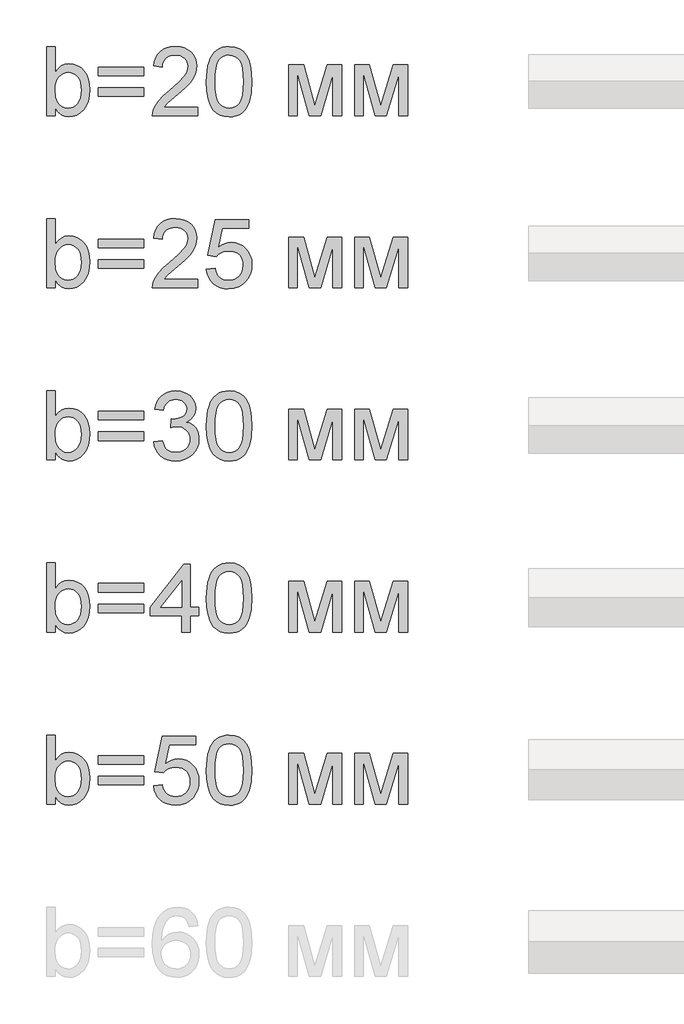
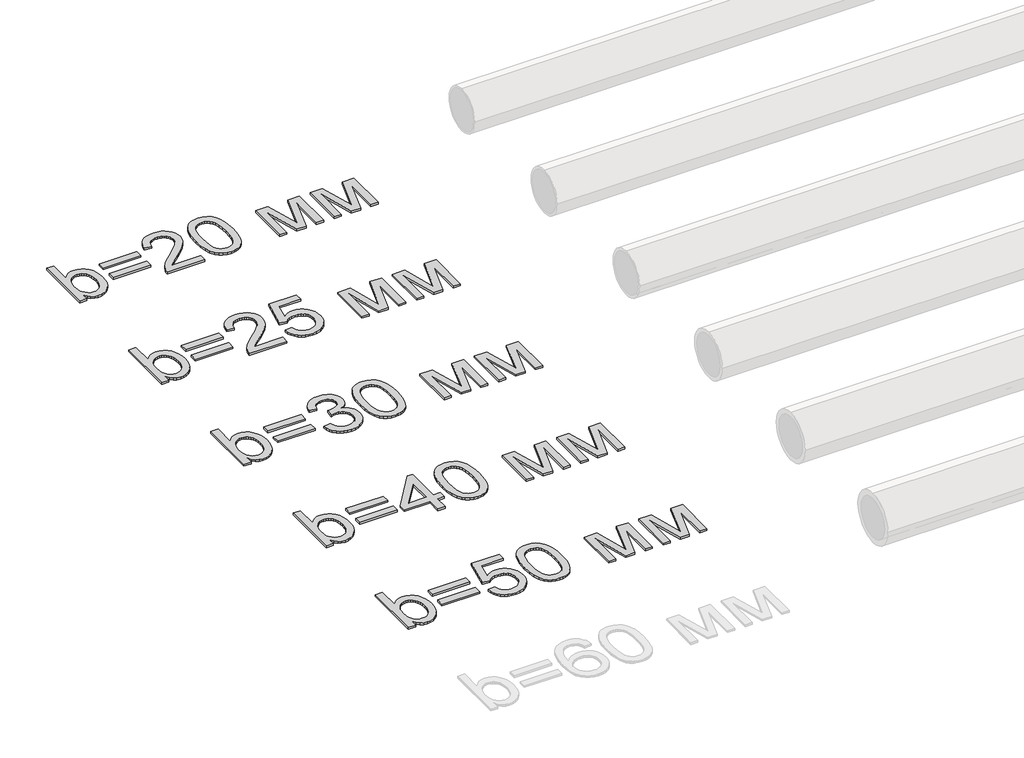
# One storey, part 65 of 86: 5 proxies.
"""IFC4 building model written with IfcOpenShell, lengths in millimetres."""

from ifc_helpers import new_model, si_unit, origin, origin_with_axes, place, context, project, spatial, polyline, outline, extrude, element, save

model = new_model("IFC4")

# Units and contexts
model_context = context("Model", 3, world=origin())
ifc_project = project(units=[si_unit("LENGTHUNIT", "METRE", prefix="MILLI")], contexts=[model_context])

# Site, building, storey
site = spatial("IfcSite", under=ifc_project)
building = spatial("IfcBuilding", under=site)
storey = spatial("IfcBuildingStorey", under=building, Name="Уровень 1", Elevation=0.0)

# Proxies
placement = place(None, origin())
element("IfcBuildingElementProxy", 1, Name="Текст модели 1", ObjectType="Текст модели 1", at=placement, inside=storey, context=model_context, shape_type="SweptSolid", body=[
    extrude(outline(polyline([(71159.6307988, 29169.2937088), (71084.2885662, 29169.2937088), (71084.2885662, 29772.0315697), (71159.6307988, 29772.0315697), (71159.6307988, 29548.5064694), (71184.4076512, 29580.3742473), (71212.3850769, 29603.1369457), (71243.563076, 29616.7945648), (71277.9416484, 29621.3471045), (71316.7531989, 29617.2452202), (71353.4310339, 29604.9395675), (71385.8782258, 29585.2026984), (71411.9978475, 29558.8071653), (71432.4704805, 29526.0104854), (71447.9767066, 29487.0701762), (71457.7439736, 29443.6049185), (71460.9997292, 29397.233393), (71457.6290105, 29343.7249568), (71447.5168541, 29296.6544555), (71430.6632602, 29256.0218892), (71407.0682288, 29221.8272577), (71378.7459136, 29194.7235517), (71347.7104688, 29175.3637617), (71313.9618943, 29163.7478877), (71277.50019, 29159.8759297), (71241.9903805, 29164.8699278), (71210.5088787, 29179.8519221), (71183.0556848, 29204.8219125), (71159.6307988, 29239.7798991), (71159.6307988, 29169.2937088)]), holes=[polyline([(71159.6307988, 29393.7017259), (71164.7811467, 29330.8674811), (71171.2190816, 29307.065516), (71180.2321905, 29288.3403224), (71198.4883345, 29265.0993774), (71219.7059286, 29248.4987024), (71243.8849727, 29238.5382973), (71271.0254669, 29235.2181623), (71293.5582391, 29237.6645776), (71314.5091188, 29245.0038234), (71333.8781058, 29257.2358997), (71351.6652003, 29274.3608066), (71366.5368299, 29296.3325588), (71377.1594225, 29323.105171), (71383.5329781, 29354.6786432), (71385.6574966, 29391.0529755), (71383.6203501, 29428.1170865), (71377.5089104, 29459.9940614), (71367.3231777, 29486.6839001), (71353.0631519, 29508.1866028), (71335.9152524, 29524.7320955), (71317.0658986, 29536.5503046), (71296.5150907, 29543.64123), (71274.2628285, 29546.0048719), (71251.7300563, 29543.5584566), (71230.7791767, 29536.2192108), (71211.4101896, 29523.9871344), (71193.6230951, 29506.8622276), (71178.7514655, 29485.1112046), (71168.1288729, 29459.00078), (71161.7553173, 29428.5309538), (71159.6307988, 29393.7017259)])]), origin_with_axes(), (0.0, 0.0, 1.0), 20.0),
    extrude(outline(polyline([(71931.8886831, 29517.7515346), (71536.3419619, 29517.7515346), (71536.3419619, 29593.0937672), (71931.8886831, 29593.0937672), (71931.8886831, 29517.7515346)])), origin_with_axes(), (0.0, 0.0, 1.0), 20.0),
    extrude(outline(polyline([(71931.8886831, 29338.8137322), (71536.3419619, 29338.8137322), (71536.3419619, 29414.1559648), (71931.8886831, 29414.1559648), (71931.8886831, 29338.8137322)])), origin_with_axes(), (0.0, 0.0, 1.0), 20.0),
    extrude(outline(polyline([(72402.7776369, 29244.6359414), (72402.7776369, 29169.2937088), (72007.2309157, 29169.2937088), (72008.8863847, 29195.8180007), (72015.3243196, 29221.2386465), (72033.9023603, 29261.8344247), (72061.0888398, 29301.2161923), (72100.4154251, 29342.4373698), (72155.4137833, 29388.5513779), (72236.7157043, 29460.7666136), (72285.4968568, 29514.0727147), (72299.724693, 29535.8513288), (72309.8874331, 29557.3356373), (72315.9850772, 29578.5256402), (72318.0176252, 29599.4213376), (72316.1000403, 29619.0800317), (72310.3472856, 29637.1476362), (72300.7593611, 29653.624151), (72287.3362668, 29668.5095763), (72270.8229638, 29680.8382216), (72251.964413, 29689.6443969), (72230.7606145, 29694.928102), (72207.2115683, 29696.6893371), (72182.4025262, 29694.9694888), (72160.2146434, 29689.8099438), (72140.6479198, 29681.2107021), (72123.7023554, 29669.1717638), (72109.9941525, 29654.0977991), (72100.1395136, 29636.3934781), (72094.1384385, 29616.0588008), (72091.9909274, 29593.0937672), (72016.6486948, 29602.5115463), (72023.1280164, 29641.4058703), (72034.9140358, 29675.3889696), (72052.006753, 29704.4608442), (72074.406168, 29728.6214943), (72101.597246, 29747.6134023), (72133.0649521, 29761.1790508), (72168.8092865, 29769.31844), (72208.830249, 29772.0315697), (72249.2098965, 29769.0149373), (72285.1473689, 29759.9650403), (72316.6426662, 29744.8818785), (72343.6957885, 29723.7654519), (72365.4238188, 29698.1792592), (72380.9438405, 29669.6867986), (72390.2558535, 29638.2880704), (72393.3598578, 29603.9830743), (72390.0121317, 29567.9490329), (72379.9689532, 29532.5403908), (72362.1450705, 29496.5247435), (72335.4552318, 29458.6696862), (72292.909679, 29413.4753831), (72227.5186544, 29355.4419984), (72140.8456563, 29282.9692453), (72106.85336, 29244.6359414), (72402.7776369, 29244.6359414)])), origin_with_axes(), (0.0, 0.0, 1.0), 20.0),
    extrude(outline(polyline([(72478.1198695, 29465.8065969), (72483.6564935, 29562.2836501), (72490.5772736, 29603.1967265), (72500.2663656, 29639.2261694), (72512.682383, 29670.6662845), (72527.7839389, 29697.8113772), (72545.5710333, 29720.6614476), (72566.0436664, 29739.2164957), (72589.2708158, 29753.5730906), (72615.3214596, 29763.8278012), (72644.1955977, 29769.9806276), (72675.8932301, 29772.0315697), (72722.3199379, 29767.1755274), (72763.8906034, 29752.6074004), (72798.6554519, 29728.8974058), (72824.664709, 29696.6157607), (72844.3096075, 29656.0383766), (72859.9813805, 29607.4411651), (72870.2452882, 29545.7289604), (72873.6665907, 29465.8065969), (72868.185149, 29369.8813667), (72861.3333468, 29329.106246), (72851.7408238, 29293.1227884), (72839.4213755, 29261.6688778), (72824.3887975, 29234.4823983), (72806.6430897, 29211.56335), (72786.1842523, 29192.9117329), (72762.9295116, 29178.458569), (72736.7960944, 29168.1348805), (72707.7840006, 29161.9406674), (72675.8932301, 29159.8759297), (72634.3961411, 29163.4627792), (72597.6079415, 29174.2233275), (72565.5286316, 29192.1575748), (72538.1582111, 29217.265521), (72511.8914367, 29262.6529621), (72493.1294549, 29319.2056218), (72481.8722659, 29386.9235001), (72478.1198695, 29465.8065969)]), holes=[polyline([(72553.4621021, 29465.9537497), (72555.6693941, 29400.456959), (72562.29127, 29347.440565), (72573.3277299, 29306.9045676), (72588.7787737, 29278.848967), (72607.467179, 29259.7604899), (72628.2157235, 29246.1258635), (72651.0244072, 29237.9450876), (72675.8932301, 29235.2181623), (72700.762053, 29237.9542847), (72723.5707367, 29246.1626517), (72744.3192812, 29259.8432634), (72763.0076866, 29278.9961198), (72778.4587304, 29307.0977057), (72789.4951902, 29347.624506), (72796.1170661, 29400.5765206), (72798.3243581, 29465.9537497), (72796.1906425, 29529.7168965), (72789.7894958, 29581.79979), (72779.120918, 29622.2024301), (72764.184909, 29650.9248169), (72745.8092033, 29670.9467945), (72724.8215355, 29685.248207), (72701.2219055, 29693.8290546), (72675.0103133, 29696.6893371), (72650.2702492, 29694.1693454), (72627.8478415, 29686.6093704), (72607.7430905, 29674.0094121), (72589.955996, 29656.3694704), (72573.9899175, 29625.0995008), (72562.5855756, 29582.9402242), (72555.7429705, 29529.8916405), (72553.4621021, 29465.9537497)])]), origin_with_axes(), (0.0, 0.0, 1.0), 20.0),
    extrude(outline(polyline([(73193.8710793, 29611.9293254), (73323.5126944, 29611.9293254), (73423.4294443, 29257.5853876), (73531.1452925, 29611.9293254), (73655.3422541, 29611.9293254), (73655.3422541, 29169.2937088), (73580.0000215, 29169.2937088), (73580.0000215, 29525.6977857), (73471.6955621, 29169.2937088), (73372.8088818, 29169.2937088), (73269.2133119, 29542.7675103), (73269.2133119, 29169.2937088), (73193.8710793, 29169.2937088), (73193.8710793, 29611.9293254)])), origin_with_axes(), (0.0, 0.0, 1.0), 20.0),
    extrude(outline(polyline([(73768.355603, 29611.9293254), (73897.9972181, 29611.9293254), (73997.913968, 29257.5853876), (74105.6298162, 29611.9293254), (74229.8267777, 29611.9293254), (74229.8267777, 29169.2937088), (74154.4845451, 29169.2937088), (74154.4845451, 29525.6977857), (74046.1800857, 29169.2937088), (73947.2934054, 29169.2937088), (73843.6978356, 29542.7675103), (73843.6978356, 29169.2937088), (73768.355603, 29169.2937088), (73768.355603, 29611.9293254)])), origin_with_axes(), (0.0, 0.0, 1.0), 20.0),
])
element("IfcBuildingElementProxy", 2, Name="Текст модели 1", ObjectType="Текст модели 1", at=placement, inside=storey, context=model_context, shape_type="SweptSolid", body=[
    extrude(outline(polyline([(71159.6307988, 27669.2937088), (71084.2885662, 27669.2937088), (71084.2885662, 28272.0315697), (71159.6307988, 28272.0315697), (71159.6307988, 28048.5064694), (71184.4076512, 28080.3742473), (71212.3850769, 28103.1369457), (71243.563076, 28116.7945648), (71277.9416484, 28121.3471045), (71316.7531989, 28117.2452202), (71353.4310339, 28104.9395675), (71385.8782258, 28085.2026984), (71411.9978475, 28058.8071653), (71432.4704805, 28026.0104854), (71447.9767066, 27987.0701762), (71457.7439736, 27943.6049185), (71460.9997292, 27897.233393), (71457.6290105, 27843.7249568), (71447.5168541, 27796.6544555), (71430.6632602, 27756.0218892), (71407.0682288, 27721.8272577), (71378.7459136, 27694.7235517), (71347.7104688, 27675.3637617), (71313.9618943, 27663.7478877), (71277.50019, 27659.8759297), (71241.9903805, 27664.8699278), (71210.5088787, 27679.8519221), (71183.0556848, 27704.8219125), (71159.6307988, 27739.7798991), (71159.6307988, 27669.2937088)]), holes=[polyline([(71159.6307988, 27893.7017259), (71164.7811467, 27830.8674811), (71171.2190816, 27807.065516), (71180.2321905, 27788.3403224), (71198.4883345, 27765.0993774), (71219.7059286, 27748.4987024), (71243.8849727, 27738.5382973), (71271.0254669, 27735.2181623), (71293.5582391, 27737.6645776), (71314.5091188, 27745.0038234), (71333.8781058, 27757.2358997), (71351.6652003, 27774.3608066), (71366.5368299, 27796.3325588), (71377.1594225, 27823.105171), (71383.5329781, 27854.6786432), (71385.6574966, 27891.0529755), (71383.6203501, 27928.1170865), (71377.5089104, 27959.9940614), (71367.3231777, 27986.6839001), (71353.0631519, 28008.1866028), (71335.9152524, 28024.7320955), (71317.0658986, 28036.5503046), (71296.5150907, 28043.64123), (71274.2628285, 28046.0048719), (71251.7300563, 28043.5584566), (71230.7791767, 28036.2192108), (71211.4101896, 28023.9871344), (71193.6230951, 28006.8622276), (71178.7514655, 27985.1112046), (71168.1288729, 27959.00078), (71161.7553173, 27928.5309538), (71159.6307988, 27893.7017259)])]), origin_with_axes(), (0.0, 0.0, 1.0), 20.0),
    extrude(outline(polyline([(71931.8886831, 28017.7515346), (71536.3419619, 28017.7515346), (71536.3419619, 28093.0937672), (71931.8886831, 28093.0937672), (71931.8886831, 28017.7515346)])), origin_with_axes(), (0.0, 0.0, 1.0), 20.0),
    extrude(outline(polyline([(71931.8886831, 27838.8137322), (71536.3419619, 27838.8137322), (71536.3419619, 27914.1559648), (71931.8886831, 27914.1559648), (71931.8886831, 27838.8137322)])), origin_with_axes(), (0.0, 0.0, 1.0), 20.0),
    extrude(outline(polyline([(72402.7776369, 27744.6359414), (72402.7776369, 27669.2937088), (72007.2309157, 27669.2937088), (72008.8863847, 27695.8180007), (72015.3243196, 27721.2386465), (72033.9023603, 27761.8344247), (72061.0888398, 27801.2161923), (72100.4154251, 27842.4373698), (72155.4137833, 27888.5513779), (72236.7157043, 27960.7666136), (72285.4968568, 28014.0727147), (72299.724693, 28035.8513288), (72309.8874331, 28057.3356373), (72315.9850772, 28078.5256402), (72318.0176252, 28099.4213376), (72316.1000403, 28119.0800317), (72310.3472856, 28137.1476362), (72300.7593611, 28153.624151), (72287.3362668, 28168.5095763), (72270.8229638, 28180.8382216), (72251.964413, 28189.6443969), (72230.7606145, 28194.928102), (72207.2115683, 28196.6893371), (72182.4025262, 28194.9694888), (72160.2146434, 28189.8099438), (72140.6479198, 28181.2107021), (72123.7023554, 28169.1717638), (72109.9941525, 28154.0977991), (72100.1395136, 28136.3934781), (72094.1384385, 28116.0588008), (72091.9909274, 28093.0937672), (72016.6486948, 28102.5115463), (72023.1280164, 28141.4058703), (72034.9140358, 28175.3889696), (72052.006753, 28204.4608442), (72074.406168, 28228.6214943), (72101.597246, 28247.6134023), (72133.0649521, 28261.1790508), (72168.8092865, 28269.31844), (72208.830249, 28272.0315697), (72249.2098965, 28269.0149373), (72285.1473689, 28259.9650403), (72316.6426662, 28244.8818785), (72343.6957885, 28223.7654519), (72365.4238188, 28198.1792592), (72380.9438405, 28169.6867986), (72390.2558535, 28138.2880704), (72393.3598578, 28103.9830743), (72390.0121317, 28067.9490329), (72379.9689532, 28032.5403908), (72362.1450705, 27996.5247435), (72335.4552318, 27958.6696862), (72292.909679, 27913.4753831), (72227.5186544, 27855.4419984), (72140.8456563, 27782.9692453), (72106.85336, 27744.6359414), (72402.7776369, 27744.6359414)])), origin_with_axes(), (0.0, 0.0, 1.0), 20.0),
    extrude(outline(polyline([(72478.1198695, 27829.3959531), (72553.4621021, 27838.8137322), (72559.0906966, 27814.5933013), (72567.2944651, 27793.5826409), (72578.0734076, 27775.7817508), (72591.427524, 27761.1906312), (72607.3292233, 27749.8276761), (72625.7509142, 27741.7112795), (72646.6925967, 27736.8414416), (72670.154271, 27735.2181623), (72698.8490666, 27737.4760381), (72724.1593479, 27744.2496653), (72746.0851148, 27755.539044), (72764.6263674, 27771.3441743), (72779.3692383, 27790.8833067), (72789.8998604, 27813.3746922), (72796.2182337, 27838.8183307), (72798.3243581, 27867.2142222), (72796.3515909, 27894.0512138), (72790.4332893, 27917.9083611), (72780.5694533, 27938.7856644), (72766.7600829, 27956.6831234), (72748.9591929, 27971.0397183), (72727.1207979, 27981.2944289), (72701.2448981, 27987.4472553), (72671.3314934, 27989.4981974), (72634.7824172, 27986.2240476), (72605.1863106, 27976.4015984), (72581.5498925, 27961.3552248), (72562.8798812, 27942.409302), (72487.5376486, 27951.8270811), (72553.4621021, 28262.6137906), (72845.4132535, 28262.6137906), (72845.4132535, 28187.271558), (72614.3833605, 28187.271558), (72582.1568977, 28021.2832018), (72608.7455689, 28040.3394891), (72635.9780336, 28053.951123), (72663.8542918, 28062.1181032), (72692.3743435, 28064.84043), (72729.065974, 28061.4651127), (72762.7685633, 28051.3391608), (72793.4821113, 28034.4625743), (72821.2066182, 28010.8353531), (72844.1578562, 27981.9014342), (72860.5515976, 27949.1047543), (72870.3878424, 27912.4453135), (72873.6665907, 27871.9231117), (72870.7143377, 27832.8908321), (72861.8575787, 27796.5808791), (72847.0963136, 27762.993253), (72826.4305425, 27732.1279536), (72795.1237848, 27700.5176931), (72758.5931026, 27677.9389357), (72716.8384962, 27664.3916812), (72669.8599654, 27659.8759297), (72630.979437, 27662.777599), (72595.8605021, 27671.4826067), (72564.5031605, 27685.9909529), (72536.9074123, 27706.3026375), (72513.9469773, 27731.4059852), (72496.4955752, 27760.2893203), (72484.5532059, 27792.952643), (72478.1198695, 27829.3959531)])), origin_with_axes(), (0.0, 0.0, 1.0), 20.0),
    extrude(outline(polyline([(73193.8710793, 28111.9293254), (73323.5126944, 28111.9293254), (73423.4294443, 27757.5853876), (73531.1452925, 28111.9293254), (73655.3422541, 28111.9293254), (73655.3422541, 27669.2937088), (73580.0000215, 27669.2937088), (73580.0000215, 28025.6977857), (73471.6955621, 27669.2937088), (73372.8088818, 27669.2937088), (73269.2133119, 28042.7675103), (73269.2133119, 27669.2937088), (73193.8710793, 27669.2937088), (73193.8710793, 28111.9293254)])), origin_with_axes(), (0.0, 0.0, 1.0), 20.0),
    extrude(outline(polyline([(73768.355603, 28111.9293254), (73897.9972181, 28111.9293254), (73997.913968, 27757.5853876), (74105.6298162, 28111.9293254), (74229.8267777, 28111.9293254), (74229.8267777, 27669.2937088), (74154.4845451, 27669.2937088), (74154.4845451, 28025.6977857), (74046.1800857, 27669.2937088), (73947.2934054, 27669.2937088), (73843.6978356, 28042.7675103), (73843.6978356, 27669.2937088), (73768.355603, 27669.2937088), (73768.355603, 28111.9293254)])), origin_with_axes(), (0.0, 0.0, 1.0), 20.0),
])
element("IfcBuildingElementProxy", 3, Name="Текст модели 1", ObjectType="Текст модели 1", at=placement, inside=storey, context=model_context, shape_type="SweptSolid", body=[
    extrude(outline(polyline([(71159.6307988, 26169.2937088), (71084.2885662, 26169.2937088), (71084.2885662, 26772.0315697), (71159.6307988, 26772.0315697), (71159.6307988, 26548.5064694), (71184.4076512, 26580.3742473), (71212.3850769, 26603.1369457), (71243.563076, 26616.7945648), (71277.9416484, 26621.3471045), (71316.7531989, 26617.2452202), (71353.4310339, 26604.9395675), (71385.8782258, 26585.2026984), (71411.9978475, 26558.8071653), (71432.4704805, 26526.0104854), (71447.9767066, 26487.0701762), (71457.7439736, 26443.6049185), (71460.9997292, 26397.233393), (71457.6290105, 26343.7249568), (71447.5168541, 26296.6544555), (71430.6632602, 26256.0218892), (71407.0682288, 26221.8272577), (71378.7459136, 26194.7235517), (71347.7104688, 26175.3637617), (71313.9618943, 26163.7478877), (71277.50019, 26159.8759297), (71241.9903805, 26164.8699278), (71210.5088787, 26179.8519221), (71183.0556848, 26204.8219125), (71159.6307988, 26239.7798991), (71159.6307988, 26169.2937088)]), holes=[polyline([(71159.6307988, 26393.7017259), (71164.7811467, 26330.8674811), (71171.2190816, 26307.065516), (71180.2321905, 26288.3403224), (71198.4883345, 26265.0993774), (71219.7059286, 26248.4987024), (71243.8849727, 26238.5382973), (71271.0254669, 26235.2181623), (71293.5582391, 26237.6645776), (71314.5091188, 26245.0038234), (71333.8781058, 26257.2358997), (71351.6652003, 26274.3608066), (71366.5368299, 26296.3325588), (71377.1594225, 26323.105171), (71383.5329781, 26354.6786432), (71385.6574966, 26391.0529755), (71383.6203501, 26428.1170865), (71377.5089104, 26459.9940614), (71367.3231777, 26486.6839001), (71353.0631519, 26508.1866028), (71335.9152524, 26524.7320955), (71317.0658986, 26536.5503046), (71296.5150907, 26543.64123), (71274.2628285, 26546.0048719), (71251.7300563, 26543.5584566), (71230.7791767, 26536.2192108), (71211.4101896, 26523.9871344), (71193.6230951, 26506.8622276), (71178.7514655, 26485.1112046), (71168.1288729, 26459.00078), (71161.7553173, 26428.5309538), (71159.6307988, 26393.7017259)])]), origin_with_axes(), (0.0, 0.0, 1.0), 20.0),
    extrude(outline(polyline([(71931.8886831, 26517.7515346), (71536.3419619, 26517.7515346), (71536.3419619, 26593.0937672), (71931.8886831, 26593.0937672), (71931.8886831, 26517.7515346)])), origin_with_axes(), (0.0, 0.0, 1.0), 20.0),
    extrude(outline(polyline([(71931.8886831, 26338.8137322), (71536.3419619, 26338.8137322), (71536.3419619, 26414.1559648), (71931.8886831, 26414.1559648), (71931.8886831, 26338.8137322)])), origin_with_axes(), (0.0, 0.0, 1.0), 20.0),
    extrude(outline(polyline([(72016.6486948, 26329.3959531), (72091.9909274, 26338.8137322), (72108.8583168, 26291.4673194), (72120.230469, 26273.5606633), (72133.5615928, 26259.498374), (72149.1551909, 26248.8757814), (72167.3147659, 26241.2882153), (72188.0403178, 26236.7356756), (72211.3318466, 26235.2181623), (72238.6286906, 26237.3058927), (72262.9824787, 26243.5690836), (72284.3932108, 26254.0077352), (72302.860887, 26268.6218475), (72317.7325167, 26286.3169715), (72328.3551093, 26305.9986582), (72334.7286648, 26327.6669077), (72336.8531834, 26351.32172), (72334.7470589, 26373.8498937), (72328.4286857, 26394.3455193), (72317.8980636, 26412.808597), (72303.1551926, 26429.2391266), (72285.165763, 26442.7266002), (72264.8954651, 26452.36051), (72242.3442988, 26458.1408558), (72217.5122641, 26460.0676378), (72193.710299, 26458.0074986), (72164.6844096, 26451.8270811), (72173.0721191, 26527.1693137), (72185.1386485, 26526.2863969), (72230.2777694, 26531.6942622), (72270.6344242, 26547.9178582), (72287.2442963, 26560.1867228), (72299.1084907, 26575.3618551), (72306.2270073, 26593.4432551), (72308.5998461, 26614.430923), (72306.8799978, 26631.4684579), (72301.7204528, 26646.9700854), (72293.1212112, 26660.9358057), (72281.0822729, 26673.3656186), (72266.3302049, 26683.5697454), (72249.5915741, 26690.8584075), (72210.1546242, 26696.6893371), (72189.4980502, 26695.2178091), (72170.6440979, 26690.8032252), (72153.5927675, 26683.4455853), (72138.3440588, 26673.1448894), (72125.2750509, 26659.9011376), (72114.7628229, 26643.7143298), (72106.8073747, 26624.584466), (72101.4087064, 26602.5115463), (72026.0664738, 26611.9293254), (72034.9968093, 26647.8989875), (72048.2497581, 26679.5828243), (72065.8253205, 26706.9808359), (72087.7234962, 26730.0930222), (72113.2545067, 26748.4411368), (72141.7285731, 26761.5469328), (72173.1456955, 26769.4104105), (72207.5058739, 26772.0315697), (72254.8706807, 26766.8628277), (72298.3727267, 26751.3566016), (72335.0505616, 26726.8924489), (72361.9427354, 26694.8499271), (72378.4422429, 26657.9329689), (72383.9420787, 26618.8455069), (72378.7181544, 26582.4251894), (72363.0463814, 26549.3893862), (72337.147489, 26521.2464136), (72301.2422062, 26499.5045877), (72326.3501524, 26491.6503071), (72348.404678, 26480.4483003), (72367.4057831, 26465.8985674), (72383.3534676, 26448.0011083), (72395.97182, 26427.1973815), (72404.9849289, 26403.9288453), (72410.3927942, 26378.1954998), (72412.195416, 26349.9973448), (72408.5901724, 26311.7744055), (72397.7744418, 26276.5680986), (72379.748224, 26244.378424), (72354.5115191, 26215.2053818), (72323.7657814, 26190.9987465), (72289.212465, 26173.7082927), (72250.8515699, 26163.3340205), (72208.6830962, 26159.8759297), (72170.5705215, 26162.8281827), (72135.8424612, 26171.6849418), (72104.4989152, 26186.4462068), (72076.5398836, 26207.1119779), (72053.0966034, 26232.4682444), (72035.3003119, 26261.3009958), (72023.151009, 26293.610232), (72016.6486948, 26329.3959531)])), origin_with_axes(), (0.0, 0.0, 1.0), 20.0),
    extrude(outline(polyline([(72478.1198695, 26465.8065969), (72483.6564935, 26562.2836501), (72490.5772736, 26603.1967265), (72500.2663656, 26639.2261694), (72512.682383, 26670.6662845), (72527.7839389, 26697.8113772), (72545.5710333, 26720.6614476), (72566.0436664, 26739.2164957), (72589.2708158, 26753.5730906), (72615.3214596, 26763.8278012), (72644.1955977, 26769.9806276), (72675.8932301, 26772.0315697), (72722.3199379, 26767.1755274), (72763.8906034, 26752.6074004), (72798.6554519, 26728.8974058), (72824.664709, 26696.6157607), (72844.3096075, 26656.0383766), (72859.9813805, 26607.4411651), (72870.2452882, 26545.7289604), (72873.6665907, 26465.8065969), (72868.185149, 26369.8813667), (72861.3333468, 26329.106246), (72851.7408238, 26293.1227884), (72839.4213755, 26261.6688778), (72824.3887975, 26234.4823983), (72806.6430897, 26211.56335), (72786.1842523, 26192.9117329), (72762.9295116, 26178.458569), (72736.7960944, 26168.1348805), (72707.7840006, 26161.9406674), (72675.8932301, 26159.8759297), (72634.3961411, 26163.4627792), (72597.6079415, 26174.2233275), (72565.5286316, 26192.1575748), (72538.1582111, 26217.265521), (72511.8914367, 26262.6529621), (72493.1294549, 26319.2056218), (72481.8722659, 26386.9235001), (72478.1198695, 26465.8065969)]), holes=[polyline([(72553.4621021, 26465.9537497), (72555.6693941, 26400.456959), (72562.29127, 26347.440565), (72573.3277299, 26306.9045676), (72588.7787737, 26278.848967), (72607.467179, 26259.7604899), (72628.2157235, 26246.1258635), (72651.0244072, 26237.9450876), (72675.8932301, 26235.2181623), (72700.762053, 26237.9542847), (72723.5707367, 26246.1626517), (72744.3192812, 26259.8432634), (72763.0076866, 26278.9961198), (72778.4587304, 26307.0977057), (72789.4951902, 26347.624506), (72796.1170661, 26400.5765206), (72798.3243581, 26465.9537497), (72796.1906425, 26529.7168965), (72789.7894958, 26581.79979), (72779.120918, 26622.2024301), (72764.184909, 26650.9248169), (72745.8092033, 26670.9467945), (72724.8215355, 26685.248207), (72701.2219055, 26693.8290546), (72675.0103133, 26696.6893371), (72650.2702492, 26694.1693454), (72627.8478415, 26686.6093704), (72607.7430905, 26674.0094121), (72589.955996, 26656.3694704), (72573.9899175, 26625.0995008), (72562.5855756, 26582.9402242), (72555.7429705, 26529.8916405), (72553.4621021, 26465.9537497)])]), origin_with_axes(), (0.0, 0.0, 1.0), 20.0),
    extrude(outline(polyline([(73193.8710793, 26611.9293254), (73323.5126944, 26611.9293254), (73423.4294443, 26257.5853876), (73531.1452925, 26611.9293254), (73655.3422541, 26611.9293254), (73655.3422541, 26169.2937088), (73580.0000215, 26169.2937088), (73580.0000215, 26525.6977857), (73471.6955621, 26169.2937088), (73372.8088818, 26169.2937088), (73269.2133119, 26542.7675103), (73269.2133119, 26169.2937088), (73193.8710793, 26169.2937088), (73193.8710793, 26611.9293254)])), origin_with_axes(), (0.0, 0.0, 1.0), 20.0),
    extrude(outline(polyline([(73768.355603, 26611.9293254), (73897.9972181, 26611.9293254), (73997.913968, 26257.5853876), (74105.6298162, 26611.9293254), (74229.8267777, 26611.9293254), (74229.8267777, 26169.2937088), (74154.4845451, 26169.2937088), (74154.4845451, 26525.6977857), (74046.1800857, 26169.2937088), (73947.2934054, 26169.2937088), (73843.6978356, 26542.7675103), (73843.6978356, 26169.2937088), (73768.355603, 26169.2937088), (73768.355603, 26611.9293254)])), origin_with_axes(), (0.0, 0.0, 1.0), 20.0),
])
element("IfcBuildingElementProxy", 4, Name="Текст модели 1", ObjectType="Текст модели 1", at=placement, inside=storey, context=model_context, shape_type="SweptSolid", body=[
    extrude(outline(polyline([(71159.6307988, 24669.2937088), (71084.2885662, 24669.2937088), (71084.2885662, 25272.0315697), (71159.6307988, 25272.0315697), (71159.6307988, 25048.5064694), (71184.4076512, 25080.3742473), (71212.3850769, 25103.1369457), (71243.563076, 25116.7945648), (71277.9416484, 25121.3471045), (71316.7531989, 25117.2452202), (71353.4310339, 25104.9395675), (71385.8782258, 25085.2026984), (71411.9978475, 25058.8071653), (71432.4704805, 25026.0104854), (71447.9767066, 24987.0701762), (71457.7439736, 24943.6049185), (71460.9997292, 24897.233393), (71457.6290105, 24843.7249568), (71447.5168541, 24796.6544555), (71430.6632602, 24756.0218892), (71407.0682288, 24721.8272577), (71378.7459136, 24694.7235517), (71347.7104688, 24675.3637617), (71313.9618943, 24663.7478877), (71277.50019, 24659.8759297), (71241.9903805, 24664.8699278), (71210.5088787, 24679.8519221), (71183.0556848, 24704.8219125), (71159.6307988, 24739.7798991), (71159.6307988, 24669.2937088)]), holes=[polyline([(71159.6307988, 24893.7017259), (71164.7811467, 24830.8674811), (71171.2190816, 24807.065516), (71180.2321905, 24788.3403224), (71198.4883345, 24765.0993774), (71219.7059286, 24748.4987024), (71243.8849727, 24738.5382973), (71271.0254669, 24735.2181623), (71293.5582391, 24737.6645776), (71314.5091188, 24745.0038234), (71333.8781058, 24757.2358997), (71351.6652003, 24774.3608066), (71366.5368299, 24796.3325588), (71377.1594225, 24823.105171), (71383.5329781, 24854.6786432), (71385.6574966, 24891.0529755), (71383.6203501, 24928.1170865), (71377.5089104, 24959.9940614), (71367.3231777, 24986.6839001), (71353.0631519, 25008.1866028), (71335.9152524, 25024.7320955), (71317.0658986, 25036.5503046), (71296.5150907, 25043.64123), (71274.2628285, 25046.0048719), (71251.7300563, 25043.5584566), (71230.7791767, 25036.2192108), (71211.4101896, 25023.9871344), (71193.6230951, 25006.8622276), (71178.7514655, 24985.1112046), (71168.1288729, 24959.00078), (71161.7553173, 24928.5309538), (71159.6307988, 24893.7017259)])]), origin_with_axes(), (0.0, 0.0, 1.0), 20.0),
    extrude(outline(polyline([(71931.8886831, 25017.7515346), (71536.3419619, 25017.7515346), (71536.3419619, 25093.0937672), (71931.8886831, 25093.0937672), (71931.8886831, 25017.7515346)])), origin_with_axes(), (0.0, 0.0, 1.0), 20.0),
    extrude(outline(polyline([(71931.8886831, 24838.8137322), (71536.3419619, 24838.8137322), (71536.3419619, 24914.1559648), (71931.8886831, 24914.1559648), (71931.8886831, 24838.8137322)])), origin_with_axes(), (0.0, 0.0, 1.0), 20.0),
    extrude(outline(polyline([(72261.5109507, 24669.2937088), (72261.5109507, 24810.5603949), (71988.3953575, 24810.5603949), (71988.3953575, 24885.9026276), (72280.3465089, 25262.6137906), (72336.8531834, 25262.6137906), (72336.8531834, 24885.9026276), (72412.195416, 24885.9026276), (72412.195416, 24810.5603949), (72336.8531834, 24810.5603949), (72336.8531834, 24669.2937088), (72261.5109507, 24669.2937088)]), holes=[polyline([(72261.5109507, 24885.9026276), (72261.5109507, 25118.6983541), (72081.1016203, 24885.9026276), (72261.5109507, 24885.9026276)])]), origin_with_axes(), (0.0, 0.0, 1.0), 20.0),
    extrude(outline(polyline([(72478.1198695, 24965.8065969), (72483.6564935, 25062.2836501), (72490.5772736, 25103.1967265), (72500.2663656, 25139.2261694), (72512.682383, 25170.6662845), (72527.7839389, 25197.8113772), (72545.5710333, 25220.6614476), (72566.0436664, 25239.2164957), (72589.2708158, 25253.5730906), (72615.3214596, 25263.8278012), (72644.1955977, 25269.9806276), (72675.8932301, 25272.0315697), (72722.3199379, 25267.1755274), (72763.8906034, 25252.6074004), (72798.6554519, 25228.8974058), (72824.664709, 25196.6157607), (72844.3096075, 25156.0383766), (72859.9813805, 25107.4411651), (72870.2452882, 25045.7289604), (72873.6665907, 24965.8065969), (72868.185149, 24869.8813667), (72861.3333468, 24829.106246), (72851.7408238, 24793.1227884), (72839.4213755, 24761.6688778), (72824.3887975, 24734.4823983), (72806.6430897, 24711.56335), (72786.1842523, 24692.9117329), (72762.9295116, 24678.458569), (72736.7960944, 24668.1348805), (72707.7840006, 24661.9406674), (72675.8932301, 24659.8759297), (72634.3961411, 24663.4627792), (72597.6079415, 24674.2233275), (72565.5286316, 24692.1575748), (72538.1582111, 24717.265521), (72511.8914367, 24762.6529621), (72493.1294549, 24819.2056218), (72481.8722659, 24886.9235001), (72478.1198695, 24965.8065969)]), holes=[polyline([(72553.4621021, 24965.9537497), (72555.6693941, 24900.456959), (72562.29127, 24847.440565), (72573.3277299, 24806.9045676), (72588.7787737, 24778.848967), (72607.467179, 24759.7604899), (72628.2157235, 24746.1258635), (72651.0244072, 24737.9450876), (72675.8932301, 24735.2181623), (72700.762053, 24737.9542847), (72723.5707367, 24746.1626517), (72744.3192812, 24759.8432634), (72763.0076866, 24778.9961198), (72778.4587304, 24807.0977057), (72789.4951902, 24847.624506), (72796.1170661, 24900.5765206), (72798.3243581, 24965.9537497), (72796.1906425, 25029.7168965), (72789.7894958, 25081.79979), (72779.120918, 25122.2024301), (72764.184909, 25150.9248169), (72745.8092033, 25170.9467945), (72724.8215355, 25185.248207), (72701.2219055, 25193.8290546), (72675.0103133, 25196.6893371), (72650.2702492, 25194.1693454), (72627.8478415, 25186.6093704), (72607.7430905, 25174.0094121), (72589.955996, 25156.3694704), (72573.9899175, 25125.0995008), (72562.5855756, 25082.9402242), (72555.7429705, 25029.8916405), (72553.4621021, 24965.9537497)])]), origin_with_axes(), (0.0, 0.0, 1.0), 20.0),
    extrude(outline(polyline([(73193.8710793, 25111.9293254), (73323.5126944, 25111.9293254), (73423.4294443, 24757.5853876), (73531.1452925, 25111.9293254), (73655.3422541, 25111.9293254), (73655.3422541, 24669.2937088), (73580.0000215, 24669.2937088), (73580.0000215, 25025.6977857), (73471.6955621, 24669.2937088), (73372.8088818, 24669.2937088), (73269.2133119, 25042.7675103), (73269.2133119, 24669.2937088), (73193.8710793, 24669.2937088), (73193.8710793, 25111.9293254)])), origin_with_axes(), (0.0, 0.0, 1.0), 20.0),
    extrude(outline(polyline([(73768.355603, 25111.9293254), (73897.9972181, 25111.9293254), (73997.913968, 24757.5853876), (74105.6298162, 25111.9293254), (74229.8267777, 25111.9293254), (74229.8267777, 24669.2937088), (74154.4845451, 24669.2937088), (74154.4845451, 25025.6977857), (74046.1800857, 24669.2937088), (73947.2934054, 24669.2937088), (73843.6978356, 25042.7675103), (73843.6978356, 24669.2937088), (73768.355603, 24669.2937088), (73768.355603, 25111.9293254)])), origin_with_axes(), (0.0, 0.0, 1.0), 20.0),
])
element("IfcBuildingElementProxy", 5, Name="Текст модели 1", ObjectType="Текст модели 1", at=placement, inside=storey, context=model_context, shape_type="SweptSolid", body=[
    extrude(outline(polyline([(71159.6307988, 23169.2937088), (71084.2885662, 23169.2937088), (71084.2885662, 23772.0315697), (71159.6307988, 23772.0315697), (71159.6307988, 23548.5064694), (71184.4076512, 23580.3742473), (71212.3850769, 23603.1369457), (71243.563076, 23616.7945648), (71277.9416484, 23621.3471045), (71316.7531989, 23617.2452202), (71353.4310339, 23604.9395675), (71385.8782258, 23585.2026984), (71411.9978475, 23558.8071653), (71432.4704805, 23526.0104854), (71447.9767066, 23487.0701762), (71457.7439736, 23443.6049185), (71460.9997292, 23397.233393), (71457.6290105, 23343.7249568), (71447.5168541, 23296.6544555), (71430.6632602, 23256.0218892), (71407.0682288, 23221.8272577), (71378.7459136, 23194.7235517), (71347.7104688, 23175.3637617), (71313.9618943, 23163.7478877), (71277.50019, 23159.8759297), (71241.9903805, 23164.8699278), (71210.5088787, 23179.8519221), (71183.0556848, 23204.8219125), (71159.6307988, 23239.7798991), (71159.6307988, 23169.2937088)]), holes=[polyline([(71159.6307988, 23393.7017259), (71164.7811467, 23330.8674811), (71171.2190816, 23307.065516), (71180.2321905, 23288.3403224), (71198.4883345, 23265.0993774), (71219.7059286, 23248.4987024), (71243.8849727, 23238.5382973), (71271.0254669, 23235.2181623), (71293.5582391, 23237.6645776), (71314.5091188, 23245.0038234), (71333.8781058, 23257.2358997), (71351.6652003, 23274.3608066), (71366.5368299, 23296.3325588), (71377.1594225, 23323.105171), (71383.5329781, 23354.6786432), (71385.6574966, 23391.0529755), (71383.6203501, 23428.1170865), (71377.5089104, 23459.9940614), (71367.3231777, 23486.6839001), (71353.0631519, 23508.1866028), (71335.9152524, 23524.7320955), (71317.0658986, 23536.5503046), (71296.5150907, 23543.64123), (71274.2628285, 23546.0048719), (71251.7300563, 23543.5584566), (71230.7791767, 23536.2192108), (71211.4101896, 23523.9871344), (71193.6230951, 23506.8622276), (71178.7514655, 23485.1112046), (71168.1288729, 23459.00078), (71161.7553173, 23428.5309538), (71159.6307988, 23393.7017259)])]), origin_with_axes(), (0.0, 0.0, 1.0), 20.0),
    extrude(outline(polyline([(71931.8886831, 23517.7515346), (71536.3419619, 23517.7515346), (71536.3419619, 23593.0937672), (71931.8886831, 23593.0937672), (71931.8886831, 23517.7515346)])), origin_with_axes(), (0.0, 0.0, 1.0), 20.0),
    extrude(outline(polyline([(71931.8886831, 23338.8137322), (71536.3419619, 23338.8137322), (71536.3419619, 23414.1559648), (71931.8886831, 23414.1559648), (71931.8886831, 23338.8137322)])), origin_with_axes(), (0.0, 0.0, 1.0), 20.0),
    extrude(outline(polyline([(72016.6486948, 23329.3959531), (72091.9909274, 23338.8137322), (72097.6195219, 23314.5933013), (72105.8232904, 23293.5826409), (72116.6022328, 23275.7817508), (72129.9563493, 23261.1906312), (72145.8580485, 23249.8276761), (72164.2797394, 23241.7112795), (72185.221422, 23236.8414416), (72208.6830962, 23235.2181623), (72237.3778919, 23237.4760381), (72262.6881731, 23244.2496653), (72284.61394, 23255.539044), (72303.1551926, 23271.3441743), (72317.8980636, 23290.8833067), (72328.4286857, 23313.3746922), (72334.7470589, 23338.8183307), (72336.8531834, 23367.2142222), (72334.8804162, 23394.0512138), (72328.9621146, 23417.9083611), (72319.0982786, 23438.7856644), (72305.2889082, 23456.6831234), (72287.4880181, 23471.0397183), (72265.6496232, 23481.2944289), (72239.7737234, 23487.4472553), (72209.8603186, 23489.4981974), (72173.3112424, 23486.2240476), (72143.7151359, 23476.4015984), (72120.0787177, 23461.3552248), (72101.4087064, 23442.409302), (72026.0664738, 23451.8270811), (72091.9909274, 23762.6137906), (72383.9420787, 23762.6137906), (72383.9420787, 23687.271558), (72152.9121858, 23687.271558), (72120.685723, 23521.2832018), (72147.2743942, 23540.3394891), (72174.5068589, 23553.951123), (72202.3831171, 23562.1181032), (72230.9031687, 23564.84043), (72267.5947992, 23561.4651127), (72301.2973885, 23551.3391608), (72332.0109366, 23534.4625743), (72359.7354435, 23510.8353531), (72382.6866814, 23481.9014342), (72399.0804228, 23449.1047543), (72408.9166677, 23412.4453135), (72412.195416, 23371.9231117), (72409.243163, 23332.8908321), (72400.3864039, 23296.5808791), (72385.6251389, 23262.993253), (72364.9593678, 23232.1279536), (72333.65261, 23200.5176931), (72297.1219279, 23177.9389357), (72255.3673214, 23164.3916812), (72208.3887906, 23159.8759297), (72169.5082623, 23162.777599), (72134.3893273, 23171.4826067), (72103.0319858, 23185.9909529), (72075.4362376, 23206.3026375), (72052.4758026, 23231.4059852), (72035.0244004, 23260.2893203), (72023.0820311, 23292.952643), (72016.6486948, 23329.3959531)])), origin_with_axes(), (0.0, 0.0, 1.0), 20.0),
    extrude(outline(polyline([(72478.1198695, 23465.8065969), (72483.6564935, 23562.2836501), (72490.5772736, 23603.1967265), (72500.2663656, 23639.2261694), (72512.682383, 23670.6662845), (72527.7839389, 23697.8113772), (72545.5710333, 23720.6614476), (72566.0436664, 23739.2164957), (72589.2708158, 23753.5730906), (72615.3214596, 23763.8278012), (72644.1955977, 23769.9806276), (72675.8932301, 23772.0315697), (72722.3199379, 23767.1755274), (72763.8906034, 23752.6074004), (72798.6554519, 23728.8974058), (72824.664709, 23696.6157607), (72844.3096075, 23656.0383766), (72859.9813805, 23607.4411651), (72870.2452882, 23545.7289604), (72873.6665907, 23465.8065969), (72868.185149, 23369.8813667), (72861.3333468, 23329.106246), (72851.7408238, 23293.1227884), (72839.4213755, 23261.6688778), (72824.3887975, 23234.4823983), (72806.6430897, 23211.56335), (72786.1842523, 23192.9117329), (72762.9295116, 23178.458569), (72736.7960944, 23168.1348805), (72707.7840006, 23161.9406674), (72675.8932301, 23159.8759297), (72634.3961411, 23163.4627792), (72597.6079415, 23174.2233275), (72565.5286316, 23192.1575748), (72538.1582111, 23217.265521), (72511.8914367, 23262.6529621), (72493.1294549, 23319.2056218), (72481.8722659, 23386.9235001), (72478.1198695, 23465.8065969)]), holes=[polyline([(72553.4621021, 23465.9537497), (72555.6693941, 23400.456959), (72562.29127, 23347.440565), (72573.3277299, 23306.9045676), (72588.7787737, 23278.848967), (72607.467179, 23259.7604899), (72628.2157235, 23246.1258635), (72651.0244072, 23237.9450876), (72675.8932301, 23235.2181623), (72700.762053, 23237.9542847), (72723.5707367, 23246.1626517), (72744.3192812, 23259.8432634), (72763.0076866, 23278.9961198), (72778.4587304, 23307.0977057), (72789.4951902, 23347.624506), (72796.1170661, 23400.5765206), (72798.3243581, 23465.9537497), (72796.1906425, 23529.7168965), (72789.7894958, 23581.79979), (72779.120918, 23622.2024301), (72764.184909, 23650.9248169), (72745.8092033, 23670.9467945), (72724.8215355, 23685.248207), (72701.2219055, 23693.8290546), (72675.0103133, 23696.6893371), (72650.2702492, 23694.1693454), (72627.8478415, 23686.6093704), (72607.7430905, 23674.0094121), (72589.955996, 23656.3694704), (72573.9899175, 23625.0995008), (72562.5855756, 23582.9402242), (72555.7429705, 23529.8916405), (72553.4621021, 23465.9537497)])]), origin_with_axes(), (0.0, 0.0, 1.0), 20.0),
    extrude(outline(polyline([(73193.8710793, 23611.9293254), (73323.5126944, 23611.9293254), (73423.4294443, 23257.5853876), (73531.1452925, 23611.9293254), (73655.3422541, 23611.9293254), (73655.3422541, 23169.2937088), (73580.0000215, 23169.2937088), (73580.0000215, 23525.6977857), (73471.6955621, 23169.2937088), (73372.8088818, 23169.2937088), (73269.2133119, 23542.7675103), (73269.2133119, 23169.2937088), (73193.8710793, 23169.2937088), (73193.8710793, 23611.9293254)])), origin_with_axes(), (0.0, 0.0, 1.0), 20.0),
    extrude(outline(polyline([(73768.355603, 23611.9293254), (73897.9972181, 23611.9293254), (73997.913968, 23257.5853876), (74105.6298162, 23611.9293254), (74229.8267777, 23611.9293254), (74229.8267777, 23169.2937088), (74154.4845451, 23169.2937088), (74154.4845451, 23525.6977857), (74046.1800857, 23169.2937088), (73947.2934054, 23169.2937088), (73843.6978356, 23542.7675103), (73843.6978356, 23169.2937088), (73768.355603, 23169.2937088), (73768.355603, 23611.9293254)])), origin_with_axes(), (0.0, 0.0, 1.0), 20.0),
])

save(model, "model.ifc")
